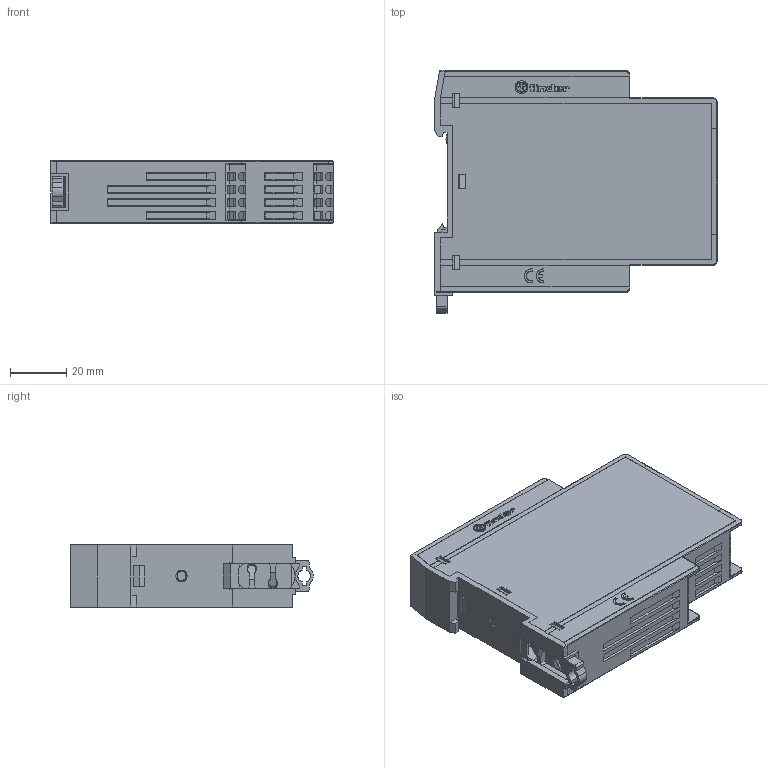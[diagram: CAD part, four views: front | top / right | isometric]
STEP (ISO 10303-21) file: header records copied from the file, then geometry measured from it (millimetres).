
FILE_DESCRIPTION(('STEP AP214'),'2;1');
FILE_NAME('7S14xxxx0310.stp','2015-03-11T11:39:27',(''),(''),'2007.1.106','THINKDESIGN','');
FILE_SCHEMA(('AUTOMOTIVE_DESIGN'));
Length unit declared in the file: millimetre
Products named in the file (1): top
Bounding box: 100.3 x 86.25 x 22.5 mm (x, y, z)
Surface area: 45786 mm2 (no closed solid volume)
Topology: 0 solids, 0 shells, 1305 faces, 8006 edges, 8006 vertices
Faces by surface type: plane 834, cylinder 296, bspline 175
Full cylindrical faces by diameter (mm): 3 x2
Entity records: 71039 total; most frequent: CARTESIAN_POINT 26281, DIRECTION 9422, COMPOSITE_CURVE_SEGMENT 7998, TRIMMED_CURVE 6641, VECTOR 6122, LINE 6122, AXIS2_PLACEMENT_3D 1650, OUTER_BOUNDARY_CURVE 1305
